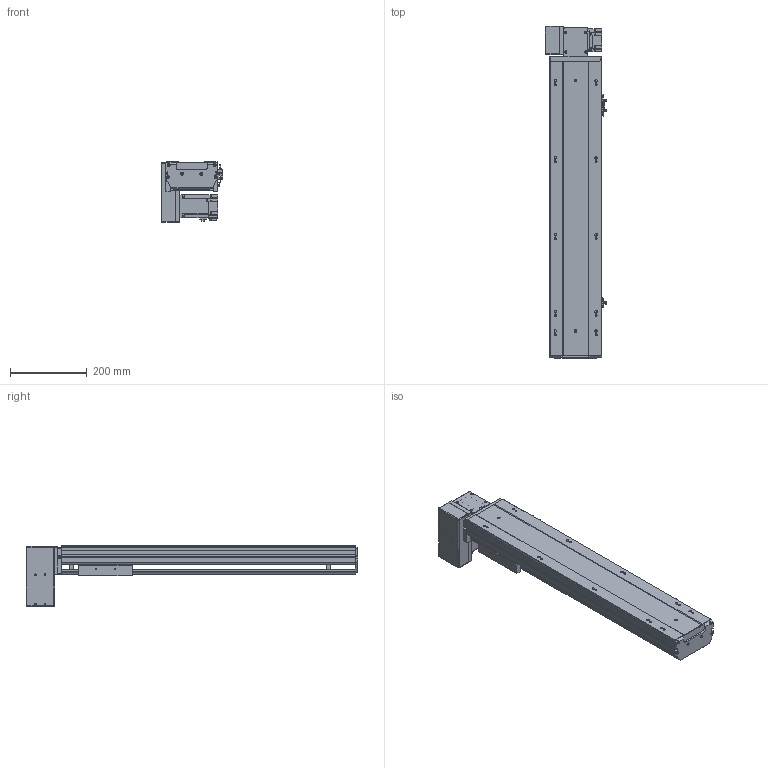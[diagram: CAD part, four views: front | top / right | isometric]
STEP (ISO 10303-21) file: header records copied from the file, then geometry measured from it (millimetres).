
FILE_DESCRIPTION (( 'STEP AP203' ), '1' );
FILE_NAME ('50.STEP', '2022-07-21T11:50:44', ( '' ), ( '' ), 'SwSTEP 2.0', 'SolidWorks 2016', '' );
FILE_SCHEMA (( 'CONFIG_CONTROL_DESIGN' ));
Length unit declared in the file: millimetre
Products named in the file (10): 50; BTB14-L-06; BTB14-L-M40; BTB14-L-菁釱_XD; BTB14-L-23; BTB14-L-02; BTB14-L-HZ; BTB14-L-24; BTB14-L-01; BTB14-L-04
Assembly tree (12 placements, depth 2):
  50
    BTB14-L-菁釱_XD
    BTB14-L-01
    BTB14-L-02
    BTB14-L-04  x3
    BTB14-L-06
    BTB14-L-23  x2
    BTB14-L-24
    BTB14-L-HZ
    BTB14-L-M40
Bounding box: 160.7 x 862.5 x 156.7 mm (x, y, z)
Volume: 4261250.8 mm3; surface area: 927833.8 mm2
Topology: 22 solids, 22 shells, 1594 faces, 4213 edges, 2692 vertices
Faces by surface type: plane 937, cylinder 448, cone 120, bspline 77, torus 12
Entity records: 42198 total; most frequent: CARTESIAN_POINT 10483, ORIENTED_EDGE 6356, DIRECTION 6284, EDGE_CURVE 3178, VECTOR 2182, LINE 2182, VERTEX_POINT 2070, AXIS2_PLACEMENT_3D 2051
